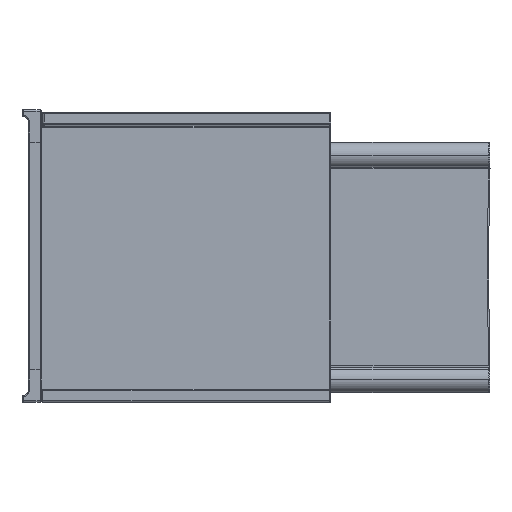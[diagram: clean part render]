
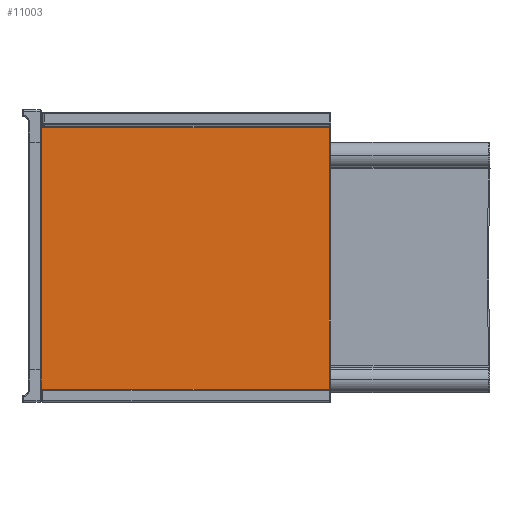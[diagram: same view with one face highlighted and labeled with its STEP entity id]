
A CAD part, left-side view. The second image highlights one B-rep face of the part: STEP entity #11003.
In plain terms, the highlighted planar face has unit normal (-1, 0, 0).
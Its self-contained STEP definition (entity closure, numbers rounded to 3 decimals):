
#255 = LINE ( 'NONE', #2285, #10723 ) ;
#370 = DIRECTION ( 'NONE',  ( 0., 0., 1. ) ) ;
#421 = CARTESIAN_POINT ( 'NONE',  ( -1150., 445., 20. ) ) ;
#461 = CARTESIAN_POINT ( 'NONE',  ( -1150., 0., 870.364 ) ) ;
#613 = DIRECTION ( 'NONE',  ( 0., 0., -1. ) ) ;
#676 = EDGE_CURVE ( 'NONE', #4353, #11653, #255, .T. ) ;
#2215 = CARTESIAN_POINT ( 'NONE',  ( -1150., 2., 423. ) ) ;
#2285 = CARTESIAN_POINT ( 'NONE',  ( -1150., 445., 870.364 ) ) ;
#2363 = DIRECTION ( 'NONE',  ( 0., 0., -1. ) ) ;
#2574 = CARTESIAN_POINT ( 'NONE',  ( -1150., 445., 423. ) ) ;
#2647 = EDGE_CURVE ( 'NONE', #6657, #10700, #3125, .T. ) ;
#3125 = LINE ( 'NONE', #3241, #11790 ) ;
#3241 = CARTESIAN_POINT ( 'NONE',  ( -1150., 2., 870.364 ) ) ;
#3472 = VECTOR ( 'NONE', #3992, 1000. ) ;
#3673 = VECTOR ( 'NONE', #9271, 1000. ) ;
#3992 = DIRECTION ( 'NONE',  ( 0., -1., 0. ) ) ;
#4327 = VERTEX_POINT ( 'NONE', #11266 ) ;
#4353 = VERTEX_POINT ( 'NONE', #11336 ) ;
#5067 = DIRECTION ( 'NONE',  ( 1., 0., 0. ) ) ;
#5186 = FACE_OUTER_BOUND ( 'NONE', #8063, .T. ) ;
#5265 = EDGE_CURVE ( 'NONE', #11653, #6657, #11304, .T. ) ;
#5584 = AXIS2_PLACEMENT_3D ( 'NONE', #461, #5067, #11549 ) ;
#5782 = EDGE_CURVE ( 'NONE', #4353, #4327, #7353, .T. ) ;
#5796 = LINE ( 'NONE', #10473, #3673 ) ;
#5856 = VERTEX_POINT ( 'NONE', #2574 ) ;
#5925 = VECTOR ( 'NONE', #9882, 1000. ) ;
#6305 = ORIENTED_EDGE ( 'NONE', *, *, #5265, .T. ) ;
#6657 = VERTEX_POINT ( 'NONE', #7268 ) ;
#6722 = ORIENTED_EDGE ( 'NONE', *, *, #676, .T. ) ;
#6943 = VECTOR ( 'NONE', #2363, 1000. ) ;
#7268 = CARTESIAN_POINT ( 'NONE',  ( -1150., 2., 20. ) ) ;
#7353 = LINE ( 'NONE', #9226, #5925 ) ;
#7943 = PLANE ( 'NONE',  #5584 ) ;
#8063 = EDGE_LOOP ( 'NONE', ( #9782, #10295, #10509, #8898, #6722, #6305 ) ) ;
#8673 = CARTESIAN_POINT ( 'NONE',  ( -1150., 0., 20. ) ) ;
#8898 = ORIENTED_EDGE ( 'NONE', *, *, #5782, .F. ) ;
#9226 = CARTESIAN_POINT ( 'NONE',  ( -1150., 445., 400. ) ) ;
#9271 = DIRECTION ( 'NONE',  ( 0., 1., 0. ) ) ;
#9782 = ORIENTED_EDGE ( 'NONE', *, *, #2647, .T. ) ;
#9882 = DIRECTION ( 'NONE',  ( 0., 0., 1. ) ) ;
#10295 = ORIENTED_EDGE ( 'NONE', *, *, #10845, .T. ) ;
#10473 = CARTESIAN_POINT ( 'NONE',  ( -1150., 445., 423. ) ) ;
#10509 = ORIENTED_EDGE ( 'NONE', *, *, #11426, .T. ) ;
#10575 = CARTESIAN_POINT ( 'NONE',  ( -1150., 445., 870.364 ) ) ;
#10700 = VERTEX_POINT ( 'NONE', #2215 ) ;
#10723 = VECTOR ( 'NONE', #613, 1000. ) ;
#10845 = EDGE_CURVE ( 'NONE', #10700, #5856, #5796, .T. ) ;
#11003 = ADVANCED_FACE ( 'NONE', ( #5186 ), #7943, .F. ) ;
#11266 = CARTESIAN_POINT ( 'NONE',  ( -1150., 445., 400. ) ) ;
#11304 = LINE ( 'NONE', #8673, #3472 ) ;
#11336 = CARTESIAN_POINT ( 'NONE',  ( -1150., 445., 50. ) ) ;
#11426 = EDGE_CURVE ( 'NONE', #5856, #4327, #11471, .T. ) ;
#11471 = LINE ( 'NONE', #10575, #6943 ) ;
#11549 = DIRECTION ( 'NONE',  ( 0., 0., -1. ) ) ;
#11653 = VERTEX_POINT ( 'NONE', #421 ) ;
#11790 = VECTOR ( 'NONE', #370, 1000. ) ;
